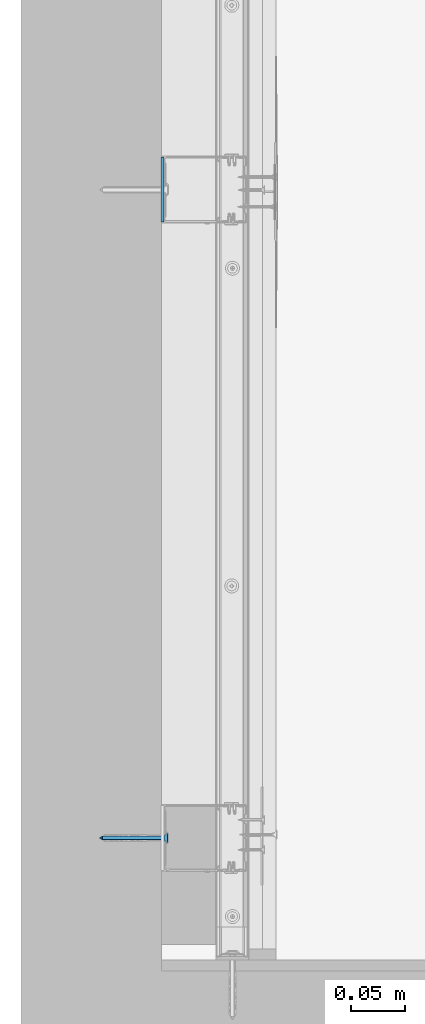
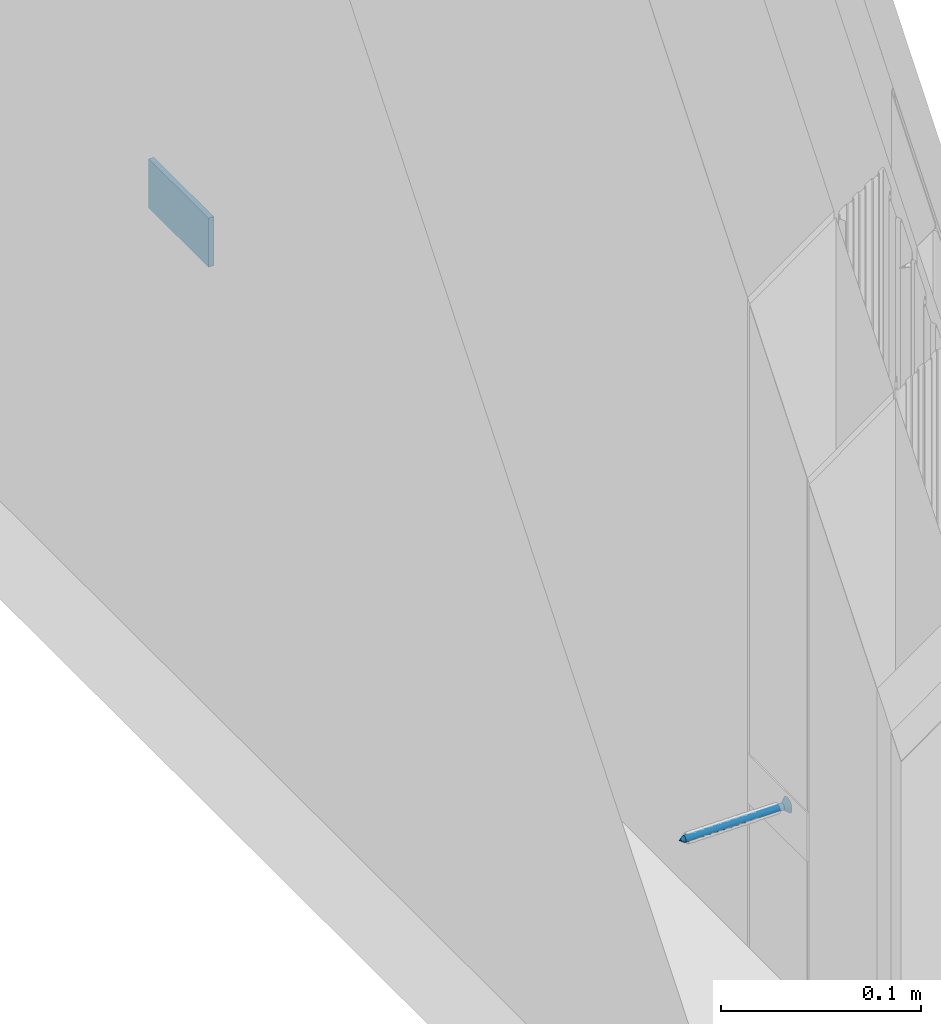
# One storey, part 27 of 61: 2 walls.
"""IFC2X3 building model written with IfcOpenShell, lengths in millimetres."""

from ifc_helpers import new_model, si_unit, frame, origin_with_axes, place, context, subcontext, project, spatial, faceted_brep, material, type_object, element, save


model = new_model("IFC2X3")

# Units and contexts
model_context = context("Model", 3, world=origin_with_axes())
body_context = subcontext(model_context, "Body", "Model", "MODEL_VIEW")
ifc_project = project(units=[si_unit("LENGTHUNIT", "METRE", prefix="MILLI"), si_unit("AREAUNIT", "SQUARE_METRE"), si_unit("VOLUMEUNIT", "CUBIC_METRE")], contexts=[model_context])

# Site, building, storey
site_placement = place(None, frame((2152.1410261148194, -2015.0250894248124, 57.61556563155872), z_axis=(0.0, 0.0, 1.0), x_axis=(-1.1102230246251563e-16, 1.0, 0.0)))
site = spatial("IfcSite", under=ifc_project, at=site_placement, Name="Default Site", CompositionType="ELEMENT")
building_placement = place(site_placement, origin_with_axes())
building = spatial("IfcBuilding", under=site, at=building_placement, Name="Default Building", CompositionType="ELEMENT")
storey_placement = place(building_placement, origin_with_axes())
storey = spatial("IfcBuildingStorey", under=building, at=storey_placement, Name="Default Building Storey", CompositionType="ELEMENT", Elevation=57.61556563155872)

# Walls
ifc_material = material(Name="Default")
wall_type_1 = type_object("IfcWallType", Name="Kołek rozporowy min. fi 6#13", PredefinedType="NOTDEFINED")
wall_1_placement = place(storey_placement, frame((5691.176283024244, 2016.3286110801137, 1539.6718902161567), z_axis=(-6.858158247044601e-13, -1.0, 7.64238051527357e-14), x_axis=(-1.6476028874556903e-11, 7.642380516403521e-14, 1.0)))
element("IfcWall", 1, at=wall_1_placement, inside=storey, type_object=wall_type_1, material=ifc_material, Name="Kołek rozporowy min. fi 6", context=body_context, shape_type="Brep", body=[
    faceted_brep([(-1438.3141994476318, 3453.2833099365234, -0.46425670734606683), (-1435.8141422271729, 3453.2833099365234, -3.464256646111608), (-1435.7895851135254, 3452.970266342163, -3.464256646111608), (-1438.2587671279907, 3452.579259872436, -0.46425670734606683), (-1435.7162714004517, 3452.6650905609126, -3.464256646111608), (-1438.093900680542, 3451.892614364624, -0.46425670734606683), (-1435.5961084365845, 3452.3751735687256, -3.464256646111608), (-1437.8236532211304, 3451.240301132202, -0.46425670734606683), (-1435.4321956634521, 3452.107667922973, -3.464256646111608), (-1437.4547004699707, 3450.6382942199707, -0.46425670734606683), (-1435.22834777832, 3451.8690109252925, -3.464256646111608), (-1436.9961023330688, 3450.101137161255, -0.46425670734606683), (-1434.9896907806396, 3451.665163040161, -3.464256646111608), (-1436.4591836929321, 3449.642658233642, -0.46425670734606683), (-1434.7221851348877, 3451.501131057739, -3.464256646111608), (-1435.8570575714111, 3449.2735862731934, -0.46425670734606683), (-1434.4321489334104, 3451.381206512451, -3.464256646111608), (-1435.2047443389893, 3449.0034580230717, -0.46425670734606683), (-1434.1269731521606, 3451.307773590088, -3.464256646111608), (-1434.5180988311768, 3448.838710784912, -0.46425670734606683), (-1433.8141679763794, 3451.28321647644, -3.464256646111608), (-1433.8141679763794, 3448.7831592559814, -0.46425670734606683), (-1433.5012435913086, 3451.307773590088, -3.464256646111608), (-1433.110237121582, 3448.838710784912, -0.46425670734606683), (-1433.1960678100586, 3451.381206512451, -3.464256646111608), (-1432.4235916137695, 3449.0034580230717, -0.46425670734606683), (-1432.9061508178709, 3451.501131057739, -3.464256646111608), (-1431.771159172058, 3449.2735862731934, -0.46425670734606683), (-1432.6385259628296, 3451.665163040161, -3.464256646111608), (-1431.1691522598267, 3449.642658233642, -0.46425670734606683), (-1432.3999881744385, 3451.8690109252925, -3.464256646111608), (-1430.6321144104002, 3450.101137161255, -0.46425670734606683), (-1432.1961402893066, 3452.107667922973, -3.464256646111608), (-1430.1735162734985, 3450.6382942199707, -0.46425670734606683), (-1432.0321083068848, 3452.3751735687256, -3.464256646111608), (-1429.8045635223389, 3451.240301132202, -0.46425670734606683), (-1431.9120645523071, 3452.6650905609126, -3.464256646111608), (-1429.5344352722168, 3451.892614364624, -0.46425670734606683), (-1431.8387508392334, 3453.5961151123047, -3.464256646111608), (-1429.369568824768, 3453.9871215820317, -0.46425670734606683), (-1429.314136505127, 3453.2833099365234, -0.46425670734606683), (-1431.814193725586, 3453.2833099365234, -3.464256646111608), (-1429.369568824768, 3452.579259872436, -0.46425670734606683), (-1431.8387508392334, 3452.970266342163, -3.464256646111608), (-1431.9120645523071, 3453.9012908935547, -3.464256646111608), (-1429.5344352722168, 3454.6737670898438, -0.46425670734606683), (-1432.0321083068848, 3454.191207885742, -3.464256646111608), (-1429.8045635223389, 3455.3260803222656, -0.46425670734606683), (-1432.1961402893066, 3454.458713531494, -3.464256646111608), (-1430.1735162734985, 3455.9283256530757, -0.46425670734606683), (-1432.3999881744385, 3454.6973705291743, -3.464256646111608), (-1430.6321144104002, 3456.465244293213, -0.46425670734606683), (-1432.6385259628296, 3454.9012184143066, -3.464256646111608), (-1431.1691522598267, 3456.923723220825, -0.46425670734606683), (-1432.9061508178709, 3455.065250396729, -3.464256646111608), (-1431.771159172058, 3457.2927951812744, -0.46425670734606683), (-1433.1960678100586, 3455.1854133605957, -3.464256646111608), (-1432.4235916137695, 3457.562923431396, -0.46425670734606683), (-1433.5012435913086, 3455.25860786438, -3.464256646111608), (-1433.110237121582, 3457.7279090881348, -0.46425670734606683), (-1433.8141679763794, 3455.283164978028, -3.464256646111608), (-1433.8141679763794, 3457.7832221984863, -0.46425670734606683), (-1434.3430995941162, 3457.7519893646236, -0.46425670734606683), (-1434.1269731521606, 3455.25860786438, -3.464256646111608), (-1434.4321489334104, 3455.1854133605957, -3.464256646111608), (-1434.8646402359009, 3457.6590061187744, -0.46425670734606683), (-1435.3716373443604, 3457.504987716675, -0.46425670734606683), (-1434.7221851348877, 3455.065250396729, -3.464256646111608), (-1435.8570575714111, 3457.2927951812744, -0.46425670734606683), (-1434.9896907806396, 3454.9012184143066, -3.464256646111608), (-1435.22834777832, 3454.6973705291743, -3.464256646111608), (-1436.3142251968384, 3457.024812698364, -0.46425670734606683), (-1436.7367029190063, 3456.705093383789, -0.46425670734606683), (-1437.118649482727, 3456.337928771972, -0.46425670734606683), (-1437.4547004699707, 3455.9283256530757, -0.46425670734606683), (-1435.4321956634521, 3454.458713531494, -3.464256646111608), (-1435.5961084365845, 3454.191207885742, -3.464256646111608), (-1437.8236532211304, 3455.3260803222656, -0.46425670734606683), (-1435.7162714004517, 3453.9012908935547, -3.464256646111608), (-1438.093900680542, 3454.6737670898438, -0.46425670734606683), (-1435.7895851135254, 3453.5961151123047, -3.464256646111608), (-1438.2587671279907, 3453.9871215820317, -0.46425670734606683), (-1434.2052936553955, 3455.752372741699, 0.20073754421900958), (-1433.8141679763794, 3455.7831287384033, 0.20073754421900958), (-1434.5866441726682, 3455.6608200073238, 0.20073754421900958), (-1434.9491596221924, 3455.510854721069, 0.20073754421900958), (-1435.2836608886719, 3455.305814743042, 0.20073754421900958), (-1435.581922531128, 3455.0509452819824, 0.20073754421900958), (-1435.836672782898, 3454.7526836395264, 0.20073754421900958), (-1436.0417127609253, 3454.418182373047, 0.20073754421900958), (-1436.1917972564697, 3454.0557861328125, 0.20073754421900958), (-1436.2833499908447, 3453.6743164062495, 0.20073754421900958), (-1436.3141059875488, 3453.2833099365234, 0.20073754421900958), (-1436.2833499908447, 3452.8920650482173, 0.20073754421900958), (-1436.1917972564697, 3452.5105953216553, 0.20073754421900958), (-1436.0417127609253, 3452.148199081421, 0.20073754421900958), (-1435.836672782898, 3451.8136978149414, 0.20073754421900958), (-1435.581922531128, 3451.5154361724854, 0.20073754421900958), (-1435.2836608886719, 3451.260566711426, 0.20073754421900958), (-1434.9491596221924, 3451.0557651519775, 0.20073754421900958), (-1434.5866441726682, 3450.905561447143, 0.20073754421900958), (-1433.4230422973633, 3450.8140087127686, 0.20073754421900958), (-1433.8141679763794, 3450.7832527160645, 0.20073754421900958), (-1434.2052936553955, 3450.8140087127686, 0.20073754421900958), (-1433.0415725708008, 3450.905561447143, 0.20073754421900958), (-1432.6791763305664, 3451.0557651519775, 0.20073754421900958), (-1432.344675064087, 3451.260566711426, 0.20073754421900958), (-1432.0464134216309, 3451.5154361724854, 0.20073754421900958), (-1431.7916631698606, 3451.8136978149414, 0.20073754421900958), (-1431.5866231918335, 3452.148199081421, 0.20073754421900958), (-1431.436538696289, 3452.5105953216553, 0.20073754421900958), (-1431.344985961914, 3452.8920650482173, 0.20073754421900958), (-1431.3141107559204, 3453.2833099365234, 0.20073754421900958), (-1431.344985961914, 3453.6743164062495, 0.20073754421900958), (-1431.436538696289, 3454.0557861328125, 0.20073754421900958), (-1431.5866231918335, 3454.418182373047, 0.20073754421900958), (-1431.7916631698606, 3454.7526836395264, 0.20073754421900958), (-1432.0464134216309, 3455.0509452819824, 0.20073754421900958), (-1432.344675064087, 3455.305814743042, 0.20073754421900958), (-1432.6791763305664, 3455.510854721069, 0.20073754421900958), (-1433.0415725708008, 3455.6608200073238, 0.20073754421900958), (-1433.4230422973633, 3455.752372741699, 0.20073754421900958), (-1433.8141679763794, 3453.2833099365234, -63.46425414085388), (-1435.7895851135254, 3452.970266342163, -60.464255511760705), (-1435.8141422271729, 3453.2833099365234, -60.464255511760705), (-1435.7162714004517, 3452.6650905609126, -60.464255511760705), (-1435.5961084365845, 3452.3751735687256, -60.464255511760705), (-1435.4321956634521, 3452.107667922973, -60.464255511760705), (-1435.22834777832, 3451.8690109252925, -60.464255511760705), (-1434.9896907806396, 3451.665163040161, -60.464255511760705), (-1434.7221851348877, 3451.501131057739, -60.464255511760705), (-1434.4321489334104, 3451.381206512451, -60.464255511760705), (-1434.1269731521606, 3451.307773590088, -60.464255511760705), (-1433.8141679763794, 3451.28321647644, -60.464255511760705), (-1433.5012435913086, 3451.307773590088, -60.464255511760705), (-1433.1960678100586, 3451.381206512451, -60.464255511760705), (-1432.9061508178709, 3451.501131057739, -60.464255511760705), (-1432.6385259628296, 3451.665163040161, -60.464255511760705), (-1432.3999881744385, 3451.8690109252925, -60.464255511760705), (-1432.1961402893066, 3452.107667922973, -60.464255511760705), (-1432.0321083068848, 3452.3751735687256, -60.464255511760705), (-1431.9120645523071, 3452.6650905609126, -60.464255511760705), (-1431.8387508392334, 3452.970266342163, -60.464255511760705), (-1431.814193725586, 3453.2833099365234, -60.464255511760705), (-1431.8387508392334, 3453.5961151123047, -60.464255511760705), (-1431.9120645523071, 3453.9012908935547, -60.464255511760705), (-1432.0321083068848, 3454.191207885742, -60.464255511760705), (-1432.1961402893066, 3454.458713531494, -60.464255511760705), (-1432.3999881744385, 3454.6973705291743, -60.464255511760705), (-1432.6385259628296, 3454.9012184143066, -60.464255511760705), (-1432.9061508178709, 3455.065250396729, -60.464255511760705), (-1433.1960678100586, 3455.1854133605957, -60.464255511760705), (-1433.5012435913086, 3455.25860786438, -60.464255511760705), (-1433.8141679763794, 3455.283164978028, -60.464255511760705), (-1434.1269731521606, 3455.25860786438, -60.464255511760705), (-1434.4321489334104, 3455.1854133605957, -60.464255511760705), (-1434.7221851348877, 3455.065250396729, -60.464255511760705), (-1434.9896907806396, 3454.9012184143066, -60.464255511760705), (-1435.22834777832, 3454.6973705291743, -60.464255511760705), (-1435.4321956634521, 3454.458713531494, -60.464255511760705), (-1435.5961084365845, 3454.191207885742, -60.464255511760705), (-1435.7162714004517, 3453.9012908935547, -60.464255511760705), (-1435.7895851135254, 3453.5961151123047, -60.464255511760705), (-1436.0417127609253, 3454.418182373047, 0.049999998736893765), (-1436.1917972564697, 3454.0557861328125, 0.049999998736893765), (-1436.2833499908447, 3453.6743164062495, 0.049999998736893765), (-1436.3141059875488, 3453.2833099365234, 0.049999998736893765), (-1436.2833499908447, 3452.8920650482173, 0.049999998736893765), (-1436.1917972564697, 3452.5105953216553, 0.049999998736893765), (-1436.0417127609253, 3452.148199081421, 0.049999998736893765), (-1435.836672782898, 3451.8136978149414, 0.049999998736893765), (-1435.581922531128, 3451.5154361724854, 0.049999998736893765), (-1435.2836608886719, 3451.260566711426, 0.049999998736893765), (-1434.9491596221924, 3451.0557651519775, 0.049999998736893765), (-1434.5866441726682, 3450.905561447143, 0.049999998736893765), (-1434.2052936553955, 3450.8140087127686, 0.049999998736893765), (-1433.8141679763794, 3450.7832527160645, 0.049999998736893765), (-1433.4230422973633, 3450.8140087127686, 0.049999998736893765), (-1433.0415725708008, 3450.905561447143, 0.049999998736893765), (-1432.6791763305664, 3451.0557651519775, 0.049999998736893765), (-1432.344675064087, 3451.260566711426, 0.049999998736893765), (-1432.0464134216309, 3451.5154361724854, 0.049999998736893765), (-1431.7916631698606, 3451.8136978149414, 0.049999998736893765), (-1431.5866231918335, 3452.148199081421, 0.049999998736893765), (-1431.436538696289, 3452.5105953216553, 0.049999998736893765), (-1431.344985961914, 3452.8920650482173, 0.049999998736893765), (-1431.3141107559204, 3453.2833099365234, 0.049999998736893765), (-1431.344985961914, 3453.6743164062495, 0.049999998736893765), (-1431.436538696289, 3454.0557861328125, 0.049999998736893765), (-1431.5866231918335, 3454.418182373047, 0.049999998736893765), (-1431.7916631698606, 3454.7526836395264, 0.049999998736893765), (-1432.0464134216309, 3455.0509452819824, 0.049999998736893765), (-1432.344675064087, 3455.305814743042, 0.049999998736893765), (-1432.6791763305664, 3455.510854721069, 0.049999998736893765), (-1433.0415725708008, 3455.6608200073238, 0.049999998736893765), (-1433.4230422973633, 3455.752372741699, 0.049999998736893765), (-1433.8141679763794, 3455.7831287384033, 0.049999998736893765), (-1434.2052936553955, 3455.752372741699, 0.049999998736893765), (-1434.5866441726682, 3455.6608200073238, 0.049999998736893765), (-1434.9491596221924, 3455.510854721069, 0.049999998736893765), (-1435.2836608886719, 3455.305814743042, 0.049999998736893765), (-1435.581922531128, 3455.0509452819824, 0.049999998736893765), (-1435.836672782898, 3454.7526836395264, 0.049999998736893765), (-1434.3141317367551, 3452.7831077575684, 0.049999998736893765), (-1435.8141422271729, 3452.7831077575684, 0.049999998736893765), (-1435.8141422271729, 3453.7832736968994, 0.049999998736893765), (-1434.3141317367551, 3453.7832736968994, 0.049999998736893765), (-1434.3141317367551, 3455.283164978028, 0.049999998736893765), (-1433.3142042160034, 3455.283164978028, 0.049999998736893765), (-1433.3142042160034, 3453.7832736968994, 0.049999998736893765), (-1431.814193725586, 3453.7832736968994, 0.049999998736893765), (-1431.814193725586, 3452.7831077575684, 0.049999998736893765), (-1433.3142042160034, 3452.7831077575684, 0.049999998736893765), (-1433.3142042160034, 3451.28321647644, 0.049999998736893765), (-1434.3141317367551, 3451.28321647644, 0.049999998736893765), (-1434.3141317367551, 3452.7831077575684, -1.799262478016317), (-1434.3141317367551, 3451.28321647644, -1.799262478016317), (-1433.3142042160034, 3451.28321647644, -1.799262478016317), (-1433.3142042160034, 3452.7831077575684, -1.799262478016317), (-1431.814193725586, 3452.7831077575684, -1.799262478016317), (-1431.814193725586, 3453.7832736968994, -1.799262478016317), (-1433.3142042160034, 3453.7832736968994, -1.799262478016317), (-1433.3142042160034, 3455.283164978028, -1.799262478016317), (-1434.3141317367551, 3455.283164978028, -1.799262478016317), (-1434.3141317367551, 3453.7832736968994, -1.799262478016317), (-1435.8141422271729, 3453.7832736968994, -1.799262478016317), (-1435.8141422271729, 3452.7831077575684, -1.799262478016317)], [[[0, 1, 2, 3]], [[4, 5, 3, 2]], [[6, 7, 5, 4]], [[7, 6, 8, 9]], [[10, 11, 9, 8]], [[11, 10, 12, 13]], [[14, 15, 13, 12]], [[16, 17, 15, 14]], [[17, 16, 18, 19]], [[20, 21, 19, 18]], [[21, 20, 22, 23]], [[24, 25, 23, 22]], [[26, 27, 25, 24]], [[27, 26, 28, 29]], [[30, 31, 29, 28]], [[31, 30, 32, 33]], [[34, 35, 33, 32]], [[36, 37, 35, 34]], [[38, 39, 40, 41]], [[41, 40, 42, 43]], [[37, 36, 43, 42]], [[44, 45, 39, 38]], [[46, 47, 45, 44]], [[47, 46, 48, 49]], [[50, 51, 49, 48]], [[51, 50, 52, 53]], [[54, 55, 53, 52]], [[56, 57, 55, 54]], [[57, 56, 58, 59]], [[60, 61, 59, 58]], [[62, 61, 63]], [[61, 60, 63]], [[63, 64, 62]], [[64, 65, 62]], [[66, 65, 64]], [[64, 67, 66]], [[67, 68, 66]], [[69, 70, 71]], [[70, 72, 71]], [[71, 68, 69]], [[68, 67, 69]], [[70, 73, 72]], [[74, 73, 75]], [[73, 70, 75]], [[76, 77, 74, 75]], [[78, 79, 77, 76]], [[79, 78, 80, 81]], [[1, 0, 81, 80]], [[82, 83, 62]], [[83, 61, 62]], [[62, 65, 82]], [[65, 84, 82]], [[66, 68, 84]], [[68, 85, 84]], [[84, 65, 66]], [[86, 85, 71]], [[85, 68, 71]], [[72, 73, 87]], [[87, 86, 72]], [[86, 71, 72]], [[88, 87, 74]], [[87, 73, 74]], [[77, 89, 88, 74]], [[79, 90, 89, 77]], [[90, 79, 81, 91]], [[0, 92, 91, 81]], [[92, 0, 3, 93]], [[5, 94, 93, 3]], [[7, 95, 94, 5]], [[95, 7, 9, 96]], [[11, 97, 96, 9]], [[97, 11, 13, 98]], [[15, 99, 98, 13]], [[17, 100, 99, 15]], [[23, 101, 102, 21]], [[21, 102, 103, 19]], [[100, 17, 19, 103]], [[25, 104, 101, 23]], [[27, 105, 104, 25]], [[105, 27, 29, 106]], [[31, 107, 106, 29]], [[107, 31, 33, 108]], [[35, 109, 108, 33]], [[37, 110, 109, 35]], [[110, 37, 42, 111]], [[40, 112, 111, 42]], [[112, 40, 39, 113]], [[45, 114, 113, 39]], [[47, 115, 114, 45]], [[115, 47, 49, 116]], [[51, 117, 116, 49]], [[117, 51, 53, 118]], [[55, 119, 118, 53]], [[57, 120, 119, 55]], [[120, 57, 59, 121]], [[61, 83, 121, 59]], [[122, 123, 124]], [[122, 125, 123]], [[122, 126, 125]], [[127, 126, 122]], [[122, 128, 127]], [[129, 128, 122]], [[122, 130, 129]], [[122, 131, 130]], [[132, 131, 122]], [[122, 133, 132]], [[134, 133, 122]], [[122, 135, 134]], [[122, 136, 135]], [[137, 136, 122]], [[122, 138, 137]], [[139, 138, 122]], [[122, 140, 139]], [[122, 141, 140]], [[142, 141, 122]], [[122, 143, 142]], [[144, 143, 122]], [[122, 145, 144]], [[122, 146, 145]], [[147, 146, 122]], [[122, 148, 147]], [[149, 148, 122]], [[122, 150, 149]], [[122, 151, 150]], [[152, 151, 122]], [[122, 153, 152]], [[154, 153, 122]], [[122, 155, 154]], [[122, 156, 155]], [[157, 156, 122]], [[122, 158, 157]], [[159, 158, 122]], [[122, 160, 159]], [[122, 161, 160]], [[162, 161, 122]], [[124, 162, 122]], [[1, 124, 123, 2]], [[125, 4, 2, 123]], [[126, 6, 4, 125]], [[6, 126, 127, 8]], [[128, 10, 8, 127]], [[10, 128, 129, 12]], [[130, 14, 12, 129]], [[131, 16, 14, 130]], [[16, 131, 132, 18]], [[133, 20, 18, 132]], [[20, 133, 134, 22]], [[135, 24, 22, 134]], [[136, 26, 24, 135]], [[26, 136, 137, 28]], [[138, 30, 28, 137]], [[30, 138, 139, 32]], [[140, 34, 32, 139]], [[141, 36, 34, 140]], [[144, 38, 41, 143]], [[143, 41, 43, 142]], [[36, 141, 142, 43]], [[145, 44, 38, 144]], [[146, 46, 44, 145]], [[46, 146, 147, 48]], [[148, 50, 48, 147]], [[50, 148, 149, 52]], [[150, 54, 52, 149]], [[151, 56, 54, 150]], [[56, 151, 152, 58]], [[153, 60, 58, 152]], [[60, 153, 154, 63]], [[155, 64, 63, 154]], [[156, 67, 64, 155]], [[67, 156, 157, 69]], [[158, 70, 69, 157]], [[70, 158, 159, 75]], [[160, 76, 75, 159]], [[161, 78, 76, 160]], [[78, 161, 162, 80]], [[124, 1, 80, 162]], [[163, 164, 165, 166, 167, 168, 169, 170, 171, 172, 173, 174, 175, 176, 177, 178, 179, 180, 181, 182, 183, 184, 185, 186, 187, 188, 189, 190, 191, 192, 193, 194, 195, 196, 197, 198, 199, 200, 201, 202], [203, 204, 205, 206, 207, 208, 209, 210, 211, 212, 213, 214]], [[187, 186, 112, 113]], [[113, 114, 188, 187]], [[114, 115, 189, 188]], [[190, 189, 115, 116]], [[116, 117, 191, 190]], [[192, 191, 117, 118]], [[118, 119, 193, 192]], [[119, 120, 194, 193]], [[195, 194, 120, 121]], [[121, 83, 196, 195]], [[197, 196, 83, 82]], [[82, 84, 198, 197]], [[84, 85, 199, 198]], [[200, 199, 85, 86]], [[86, 87, 201, 200]], [[202, 201, 87, 88]], [[88, 89, 163, 202]], [[89, 90, 164, 163]], [[92, 93, 167, 166]], [[91, 92, 166, 165]], [[165, 164, 90, 91]], [[93, 94, 168, 167]], [[94, 95, 169, 168]], [[170, 169, 95, 96]], [[96, 97, 171, 170]], [[172, 171, 97, 98]], [[98, 99, 173, 172]], [[99, 100, 174, 173]], [[175, 174, 100, 103]], [[103, 102, 176, 175]], [[177, 176, 102, 101]], [[101, 104, 178, 177]], [[104, 105, 179, 178]], [[180, 179, 105, 106]], [[106, 107, 181, 180]], [[182, 181, 107, 108]], [[108, 109, 183, 182]], [[109, 110, 184, 183]], [[185, 184, 110, 111]], [[111, 112, 186, 185]], [[215, 216, 217, 218, 219, 220, 221, 222, 223, 224, 225, 226]], [[216, 214, 213, 217]], [[215, 203, 214, 216]], [[226, 204, 203, 215]], [[225, 205, 204, 226]], [[224, 206, 205, 225]], [[223, 207, 206, 224]], [[222, 208, 207, 223]], [[221, 209, 208, 222]], [[220, 210, 209, 221]], [[219, 211, 210, 220]], [[218, 212, 211, 219]], [[217, 213, 212, 218]]]),
])
wall_type_2 = type_object("IfcWallType", Name="Taśma uszczelniająca piankowa RIGIPS szer.30mm#1", PredefinedType="NOTDEFINED")
wall_2_placement = place(storey_placement, frame((2808.0370864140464, 2019.7786110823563, 120.9602480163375), z_axis=(0.0, 0.0, 1.0), x_axis=(1.0, 0.0, 0.0)))
element("IfcWall", 2, at=wall_2_placement, inside=storey, type_object=wall_type_2, material=ifc_material, Name="Taśma uszczelniająca piankowa RIGIPS szer.30mm", context=body_context, shape_type="Brep", body=[
    faceted_brep([(59.99999865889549, 0.0, 4.511946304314e-12), (0.0, 0.0, 0.0), (1.0828671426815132e-12, -2.2379254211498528e-11, -29.999999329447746), (59.99999865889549, -2.2379254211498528e-11, -29.999999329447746), (0.0, 3.000000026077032, 0.0), (1.0828671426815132e-12, 3.000000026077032, -29.999999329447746), (59.99999865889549, 3.000000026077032, 0.0), (59.99999865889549, 3.000000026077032, -29.999999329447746)], [[[0, 1, 2, 3]], [[1, 4, 5, 2]], [[4, 6, 7, 5]], [[6, 0, 3, 7]], [[7, 3, 2, 5]], [[0, 6, 4, 1]]]),
])

save(model, "model.ifc")
